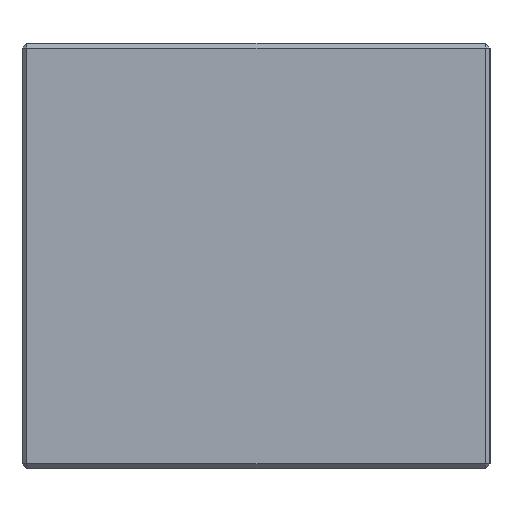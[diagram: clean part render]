
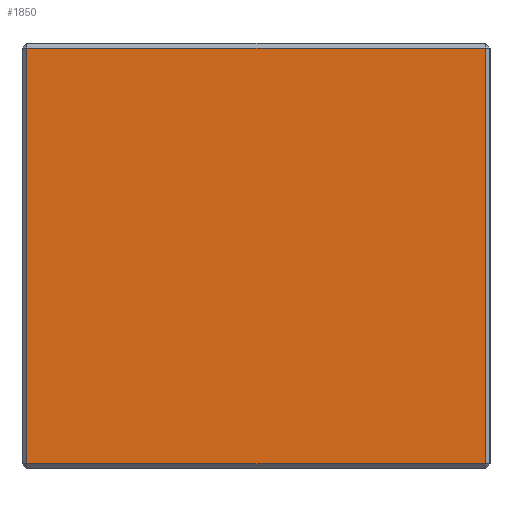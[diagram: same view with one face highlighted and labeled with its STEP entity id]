
A CAD part, left-side view. The second image highlights one B-rep face of the part: STEP entity #1850.
In plain terms, the highlighted planar face has unit normal (-1, 0, 0).
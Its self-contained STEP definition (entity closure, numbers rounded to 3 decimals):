
#129 = ORIENTED_EDGE ( 'NONE', *, *, #3394, .T. ) ;
#177 = DIRECTION ( 'NONE',  ( -1., 0., 0. ) ) ;
#192 = LINE ( 'NONE', #2754, #2124 ) ;
#259 = VERTEX_POINT ( 'NONE', #3983 ) ;
#391 = CARTESIAN_POINT ( 'NONE',  ( -90., 24.25, -22. ) ) ;
#464 = FACE_OUTER_BOUND ( 'NONE', #1347, .T. ) ;
#474 = VECTOR ( 'NONE', #1118, 1000. ) ;
#646 = DIRECTION ( 'NONE',  ( 0., -1., 0. ) ) ;
#668 = CARTESIAN_POINT ( 'NONE',  ( -90., 0., -22. ) ) ;
#852 = VECTOR ( 'NONE', #646, 1000. ) ;
#1002 = LINE ( 'NONE', #1689, #474 ) ;
#1118 = DIRECTION ( 'NONE',  ( 0., 0., -1. ) ) ;
#1253 = LINE ( 'NONE', #668, #852 ) ;
#1347 = EDGE_LOOP ( 'NONE', ( #2549, #3028, #129, #2749 ) ) ;
#1356 = AXIS2_PLACEMENT_3D ( 'NONE', #2044, #177, #2641 ) ;
#1400 = PLANE ( 'NONE',  #1356 ) ;
#1689 = CARTESIAN_POINT ( 'NONE',  ( -90., 24.25, 0. ) ) ;
#1804 = DIRECTION ( 'NONE',  ( 0., 1., 0. ) ) ;
#1847 = LINE ( 'NONE', #3086, #2190 ) ;
#1850 = ADVANCED_FACE ( 'NONE', ( #464 ), #1400, .T. ) ;
#1986 = VERTEX_POINT ( 'NONE', #2482 ) ;
#2044 = CARTESIAN_POINT ( 'NONE',  ( -90., 0., 0. ) ) ;
#2124 = VECTOR ( 'NONE', #1804, 1000. ) ;
#2152 = VERTEX_POINT ( 'NONE', #391 ) ;
#2190 = VECTOR ( 'NONE', #2491, 1000. ) ;
#2482 = CARTESIAN_POINT ( 'NONE',  ( -90., 24.25, 22. ) ) ;
#2491 = DIRECTION ( 'NONE',  ( 0., 0., 1. ) ) ;
#2549 = ORIENTED_EDGE ( 'NONE', *, *, #4017, .T. ) ;
#2641 = DIRECTION ( 'NONE',  ( 0., 0., 1. ) ) ;
#2676 = VERTEX_POINT ( 'NONE', #3682 ) ;
#2749 = ORIENTED_EDGE ( 'NONE', *, *, #3330, .T. ) ;
#2754 = CARTESIAN_POINT ( 'NONE',  ( -90., 0., 22. ) ) ;
#3028 = ORIENTED_EDGE ( 'NONE', *, *, #3091, .T. ) ;
#3086 = CARTESIAN_POINT ( 'NONE',  ( -90., -24.25, 0. ) ) ;
#3091 = EDGE_CURVE ( 'NONE', #2152, #259, #1253, .T. ) ;
#3330 = EDGE_CURVE ( 'NONE', #2676, #1986, #192, .T. ) ;
#3394 = EDGE_CURVE ( 'NONE', #259, #2676, #1847, .T. ) ;
#3682 = CARTESIAN_POINT ( 'NONE',  ( -90., -24.25, 22. ) ) ;
#3983 = CARTESIAN_POINT ( 'NONE',  ( -90., -24.25, -22. ) ) ;
#4017 = EDGE_CURVE ( 'NONE', #1986, #2152, #1002, .T. ) ;
